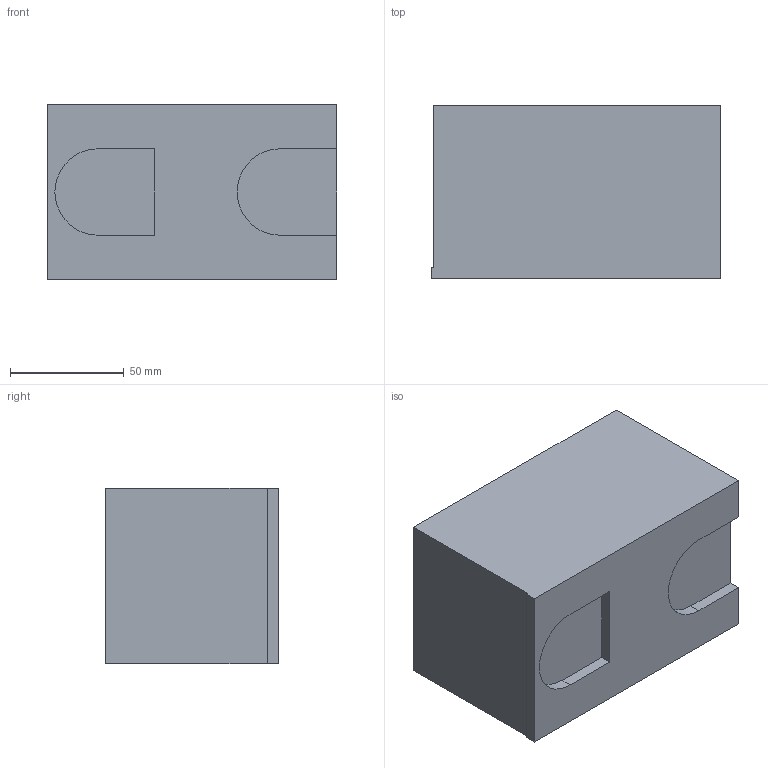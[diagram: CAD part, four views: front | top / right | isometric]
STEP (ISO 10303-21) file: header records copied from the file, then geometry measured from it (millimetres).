
FILE_DESCRIPTION (( 'STEP AP214' ), '1' );
FILE_NAME ('44258-76.STEP', '2020-03-27T14:03:10', ( '' ), ( '' ), 'SwSTEP 2.0', 'SolidWorks 2019', '' );
FILE_SCHEMA (( 'AUTOMOTIVE_DESIGN' ));
Length unit declared in the file: millimetre
Products named in the file (1): 44258-76
Bounding box: 127 x 76 x 77 mm (x, y, z)
Volume: 722680.4 mm3; surface area: 51514.9 mm2
Topology: 1 solids, 1 shells, 17 faces, 42 edges, 28 vertices
Faces by surface type: plane 15, cylinder 2
Entity records: 721 total; most frequent: CARTESIAN_POINT 88, ORIENTED_EDGE 84, DIRECTION 82, EDGE_CURVE 42, VECTOR 38, LINE 38, VERTEX_POINT 28, AXIS2_PLACEMENT_3D 22
